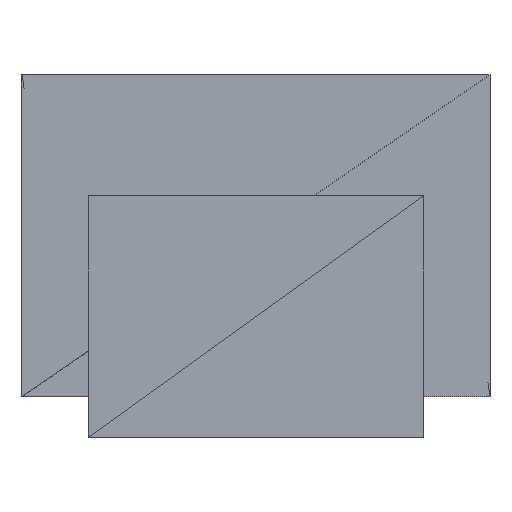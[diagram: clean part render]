
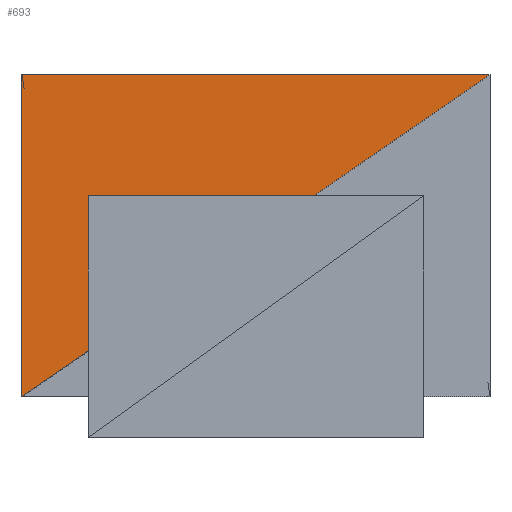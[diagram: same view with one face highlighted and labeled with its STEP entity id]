
A CAD part, left-side view. The second image highlights one B-rep face of the part: STEP entity #693.
In plain terms, the highlighted planar face has unit normal (-1, 0, 0).
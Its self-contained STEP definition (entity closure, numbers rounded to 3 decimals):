
#693=ADVANCED_FACE('',(#694),#720,.F.);
#694=FACE_OUTER_BOUND('',#695,.T.);
#695=EDGE_LOOP('',(#696,#698,#700));
#696=ORIENTED_EDGE('',*,*,#697,.T.);
#697=EDGE_CURVE('',#702,#704,#706,.T.);
#698=ORIENTED_EDGE('',*,*,#699,.T.);
#699=EDGE_CURVE('',#704,#710,#712,.T.);
#700=ORIENTED_EDGE('',*,*,#701,.T.);
#701=EDGE_CURVE('',#710,#702,#716,.T.);
#702=VERTEX_POINT('',#703);
#703=CARTESIAN_POINT('',(-1.753,1.753,2.718));
#704=VERTEX_POINT('',#705);
#705=CARTESIAN_POINT('',(-1.753,-1.753,2.718));
#706=LINE('',#707,#708);
#707=CARTESIAN_POINT('',(-1.753,1.753,2.718));
#708=VECTOR('',#709,1.0);
#709=DIRECTION('',(0.0,1.0,0.0));
#710=VERTEX_POINT('',#711);
#711=CARTESIAN_POINT('',(-1.753,1.753,0.305));
#712=LINE('',#713,#714);
#713=CARTESIAN_POINT('',(-1.753,-1.753,2.718));
#714=VECTOR('',#715,1.0);
#715=DIRECTION('',(0.0,-0.824,0.567));
#716=LINE('',#717,#718);
#717=CARTESIAN_POINT('',(-1.753,1.753,0.305));
#718=VECTOR('',#719,1.0);
#719=DIRECTION('',(0.0,0.0,-1.0));
#720=PLANE('',#721);
#721=AXIS2_PLACEMENT_3D('',#722,#723,#724);
#722=CARTESIAN_POINT('',(-1.753,-1.753,2.718));
#723=DIRECTION('',(1.0,0.0,0.0));
#724=DIRECTION('',(0.0,0.0,1.0));
